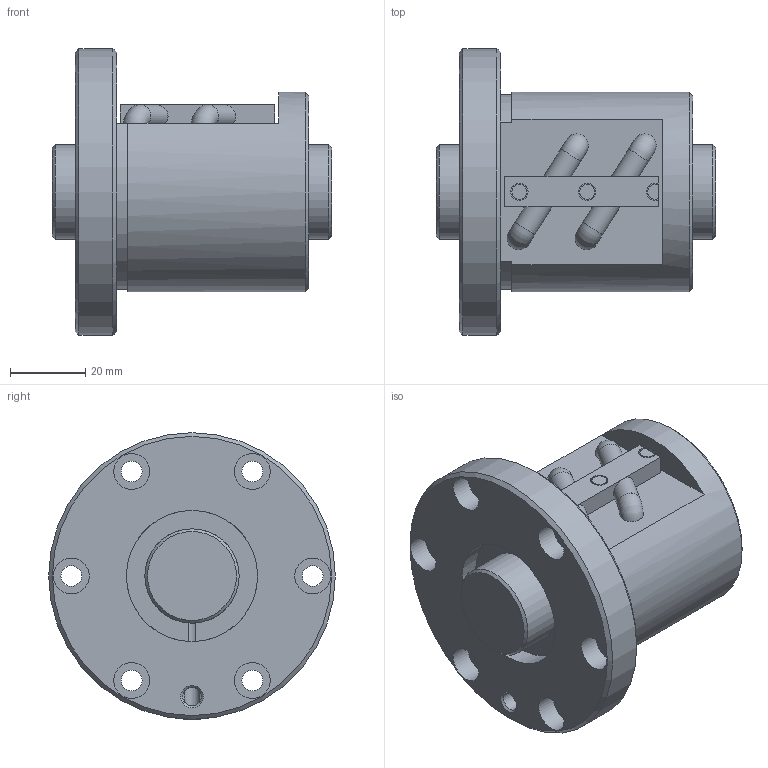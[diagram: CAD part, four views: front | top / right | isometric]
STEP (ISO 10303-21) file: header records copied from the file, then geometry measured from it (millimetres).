
FILE_DESCRIPTION(/* description */ ('STEP AP203'),/* implementation_level */ '2;1');
FILE_NAME(/* name */ 'BIF2506V-5RRG0+74LC0_000',/* time_stamp */ '2024-07-15T08:17:40+02:00',/* author */ ('License CC BY-ND 4.0'),/* organization */ ('CADENAS'),/* preprocessor_version */ 'ST-DEVELOPER v19.3',/* originating_system */ 'PARTsolutions',/* authorisation */ ' ');
FILE_SCHEMA (('CONFIG_CONTROL_DESIGN'));
Length unit declared in the file: millimetre
Products named in the file (3): BIF2506V-5RRG0+74LC0_000; BIF2506V-5RR000 Shaft; BIF2506V-5RR Nut
Assembly tree (2 placements, depth 2):
  BIF2506V-5RRG0+74LC0_000
    BIF2506V-5RR000 Shaft
    BIF2506V-5RR Nut
Bounding box: 74 x 76 x 76 mm (x, y, z)
Volume: 152692.1 mm3; surface area: 33684.2 mm2
Topology: 2 solids, 2 shells, 90 faces, 202 edges, 129 vertices
Faces by surface type: plane 45, cylinder 33, cone 8, torus 4
Full cylindrical faces by diameter (mm): 4 x2, 4.25 x2, 4.6 x2, 4.917 x1, 5.5 x6, 9.5 x6, 25 x2, 34.8 x2, 53 x1, 76 x1
Entity records: 2475 total; most frequent: CARTESIAN_POINT 478, DIRECTION 430, ORIENTED_EDGE 322, AXIS2_PLACEMENT_3D 187, EDGE_CURVE 161, EDGE_LOOP 152, FACE_BOUND 152, VERTEX_POINT 121
